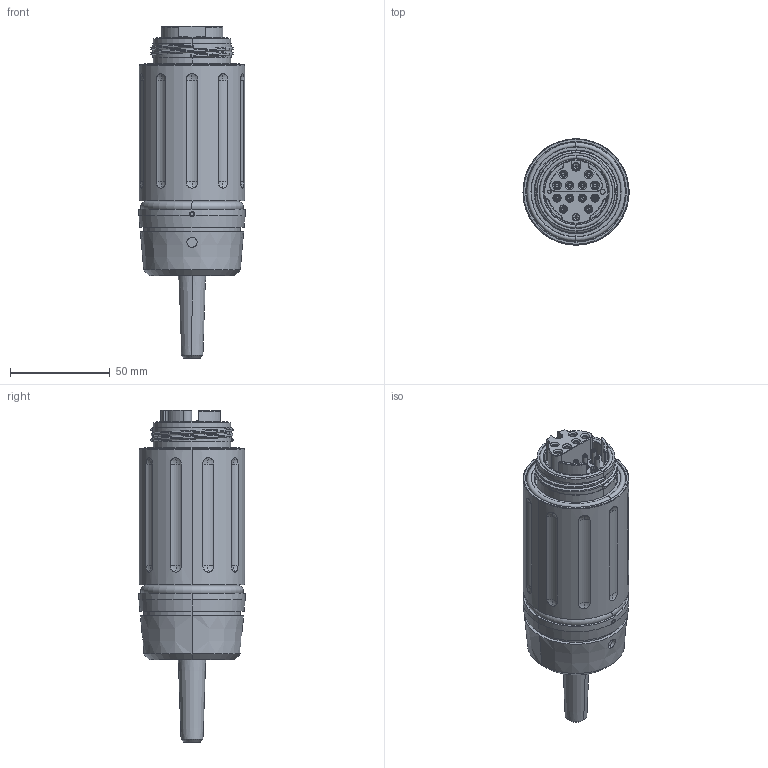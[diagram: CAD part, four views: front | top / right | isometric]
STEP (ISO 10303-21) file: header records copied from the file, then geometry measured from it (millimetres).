
FILE_DESCRIPTION (( 'STEP AP214' ), '1' );
FILE_NAME ('QFOCA-PHHX-12CH-X-SXXX.STEP', '2025-06-09T19:32:38', ( '' ), ( '' ), 'SwSTEP 2.0', 'SolidWorks 2024', '' );
FILE_SCHEMA (( 'AUTOMOTIVE_DESIGN' ));
Length unit declared in the file: inch
Products named in the file (1): QFOCA-PHHX-12CH-X-SXXX
Bounding box: 53.09 x 53.09 x 166.09 mm (x, y, z)
Volume: 228464.7 mm3; surface area: 52577.8 mm2
Topology: 9 solids, 21 shells, 766 faces, 1732 edges, 1079 vertices
Faces by surface type: cylinder 270, plane 176, cone 133, torus 127, sphere 40, bspline 20
Entity records: 24817 total; most frequent: CARTESIAN_POINT 7321, DIRECTION 3888, ORIENTED_EDGE 3456, EDGE_CURVE 1728, AXIS2_PLACEMENT_3D 1646, VERTEX_POINT 1079, CIRCLE 899, EDGE_LOOP 869
